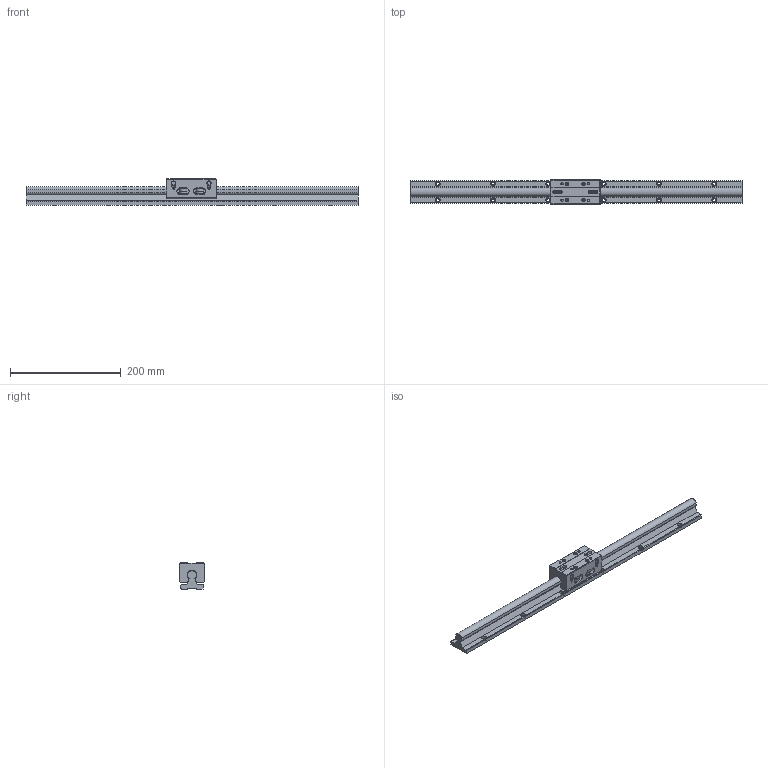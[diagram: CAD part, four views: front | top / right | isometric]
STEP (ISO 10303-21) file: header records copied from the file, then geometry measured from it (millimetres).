
FILE_DESCRIPTION((''),'2;1');
FILE_NAME('D:\製品 (図面)\カタログ用3D\リニアガイド関連\STEP形式\LTGW\LTGW16.stp','2010-06-02T16:07:04',('Tsuchiya'),(''),'Autodesk Inventor 10','Autodesk Inventor 10','');
FILE_SCHEMA(('AUTOMOTIVE_DESIGN { 1 0 10303 214 1 1 1 1 }'));
Length unit declared in the file: millimetre
Products named in the file (3): LTGW16; LTGW161; LTGW162
Assembly tree (2 placements, depth 2):
  LTGW16
    LTGW161
    LTGW162
Bounding box: 600 x 45 x 47 mm (x, y, z)
Volume: 481642.8 mm3; surface area: 117697.9 mm2
Topology: 2 solids, 2 shells, 359 faces, 881 edges, 570 vertices
Faces by surface type: bspline 173, plane 104, cylinder 51, cone 26, torus 5
Full cylindrical faces by diameter (mm): 4 x2, 4.134 x2, 5 x3, 5.5 x5, 6.5 x5, 8 x7, 13 x3, 14 x4
Entity records: 11678 total; most frequent: CARTESIAN_POINT 4594, ORIENTED_EDGE 1358, DIRECTION 1241, EDGE_CURVE 679, EDGE_LOOP 607, VERTEX_POINT 516, AXIS2_PLACEMENT_3D 473, FACE_OUTER_BOUND 359
